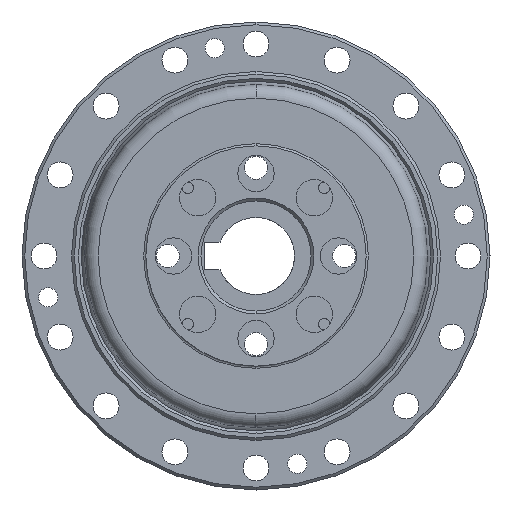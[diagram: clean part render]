
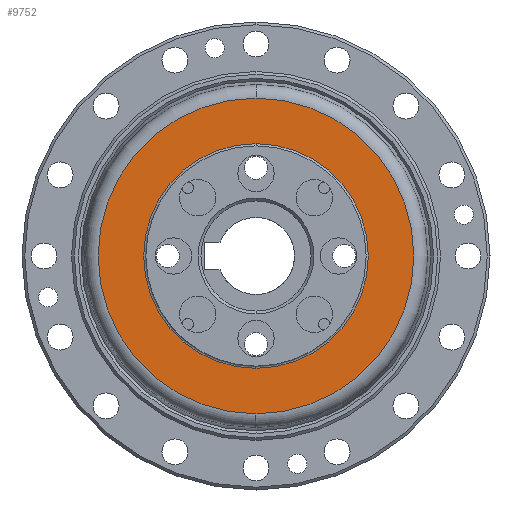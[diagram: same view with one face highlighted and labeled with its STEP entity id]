
A CAD part, left-side view. The second image highlights one B-rep face of the part: STEP entity #9752.
In plain terms, the highlighted planar face has unit normal (-1, 0, 0).
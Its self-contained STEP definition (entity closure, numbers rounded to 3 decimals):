
#64 = DIRECTION ( 'NONE',  ( 0., 0., 1. ) ) ;
#233 = CARTESIAN_POINT ( 'NONE',  ( 20.912, 0., 20.4 ) ) ;
#631 = ORIENTED_EDGE ( 'NONE', *, *, #2696, .F. ) ;
#864 = ORIENTED_EDGE ( 'NONE', *, *, #1427, .F. ) ;
#983 = CARTESIAN_POINT ( 'NONE',  ( 20.912, 0., 0. ) ) ;
#1381 = DIRECTION ( 'NONE',  ( 1., 0., 0. ) ) ;
#1427 = EDGE_CURVE ( 'NONE', #11783, #12379, #1621, .T. ) ;
#1621 = CIRCLE ( 'NONE', #11725, 20.4 ) ;
#1904 = CARTESIAN_POINT ( 'NONE',  ( 20.912, 0., 0. ) ) ;
#2032 = VERTEX_POINT ( 'NONE', #14256 ) ;
#2080 = DIRECTION ( 'NONE',  ( 0., 0., 1. ) ) ;
#2696 = EDGE_CURVE ( 'NONE', #12379, #11783, #6214, .T. ) ;
#3028 = DIRECTION ( 'NONE',  ( 0., 0., 1. ) ) ;
#3557 = PLANE ( 'NONE',  #13378 ) ;
#3623 = CARTESIAN_POINT ( 'NONE',  ( 20.912, 0., -28.666 ) ) ;
#6076 = VERTEX_POINT ( 'NONE', #3623 ) ;
#6214 = CIRCLE ( 'NONE', #13628, 20.4 ) ;
#6489 = CARTESIAN_POINT ( 'NONE',  ( 20.912, 0., 0. ) ) ;
#6671 = DIRECTION ( 'NONE',  ( -1., 0., 0. ) ) ;
#7424 = AXIS2_PLACEMENT_3D ( 'NONE', #6489, #14182, #7597 ) ;
#7597 = DIRECTION ( 'NONE',  ( 0., 0., 1. ) ) ;
#7638 = FACE_BOUND ( 'NONE', #7764, .T. ) ;
#7764 = EDGE_LOOP ( 'NONE', ( #631, #864 ) ) ;
#8668 = DIRECTION ( 'NONE',  ( -1., 0., 0. ) ) ;
#9094 = DIRECTION ( 'NONE',  ( 0., 0., -1. ) ) ;
#9629 = DIRECTION ( 'NONE',  ( -1., 0., 0. ) ) ;
#9752 = ADVANCED_FACE ( 'NONE', ( #7638, #10211 ), #3557, .F. ) ;
#10211 = FACE_OUTER_BOUND ( 'NONE', #13786, .T. ) ;
#10769 = ORIENTED_EDGE ( 'NONE', *, *, #13751, .T. ) ;
#10811 = ORIENTED_EDGE ( 'NONE', *, *, #11131, .T. ) ;
#11131 = EDGE_CURVE ( 'NONE', #2032, #6076, #12108, .T. ) ;
#11725 = AXIS2_PLACEMENT_3D ( 'NONE', #1904, #9629, #3028 ) ;
#11783 = VERTEX_POINT ( 'NONE', #14190 ) ;
#12108 = CIRCLE ( 'NONE', #13216, 28.666 ) ;
#12210 = CIRCLE ( 'NONE', #7424, 28.666 ) ;
#12379 = VERTEX_POINT ( 'NONE', #233 ) ;
#13216 = AXIS2_PLACEMENT_3D ( 'NONE', #983, #8668, #2080 ) ;
#13254 = CARTESIAN_POINT ( 'NONE',  ( 20.912, 0., 0. ) ) ;
#13378 = AXIS2_PLACEMENT_3D ( 'NONE', #13455, #1381, #9094 ) ;
#13455 = CARTESIAN_POINT ( 'NONE',  ( 20.912, 20.4, 0. ) ) ;
#13628 = AXIS2_PLACEMENT_3D ( 'NONE', #13254, #6671, #64 ) ;
#13751 = EDGE_CURVE ( 'NONE', #6076, #2032, #12210, .T. ) ;
#13786 = EDGE_LOOP ( 'NONE', ( #10811, #10769 ) ) ;
#14182 = DIRECTION ( 'NONE',  ( -1., 0., 0. ) ) ;
#14190 = CARTESIAN_POINT ( 'NONE',  ( 20.912, 0., -20.4 ) ) ;
#14256 = CARTESIAN_POINT ( 'NONE',  ( 20.912, 0., 28.666 ) ) ;
